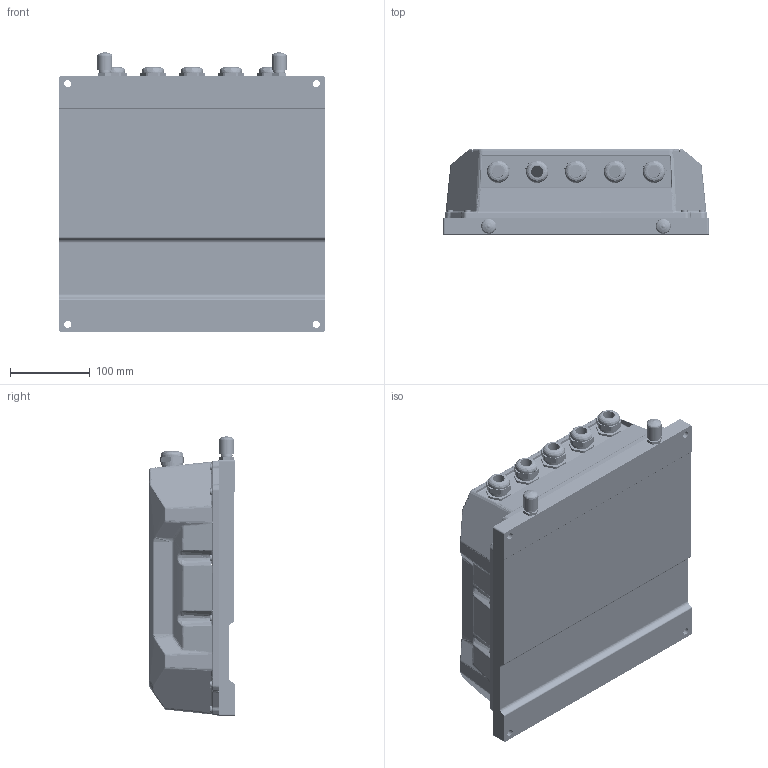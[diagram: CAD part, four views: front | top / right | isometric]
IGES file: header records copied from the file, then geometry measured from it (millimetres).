
Start section: SolidWorks IGES file using analytic representation for surfaces
Global section: file name: N:\UK\CAD\CAD Shared\EVolution5\EVo5 models\Gen4 SIZE 8 CUSTOMER MODEL.IGS; native system: SolidWorks 2015; preprocessor: SolidWorks 2015; author: steve.jacobson; date: 150107.103236; units: millimetre
Bounding box: 334 x 107.01 x 352.28 mm (x, y, z)
Surface area: 494349.7 mm2 (no closed solid volume)
Topology: 0 solids, 0 shells, 3728 faces, 36012 edges, 35983 vertices
Faces by surface type: bspline 1996, revolution 1732
